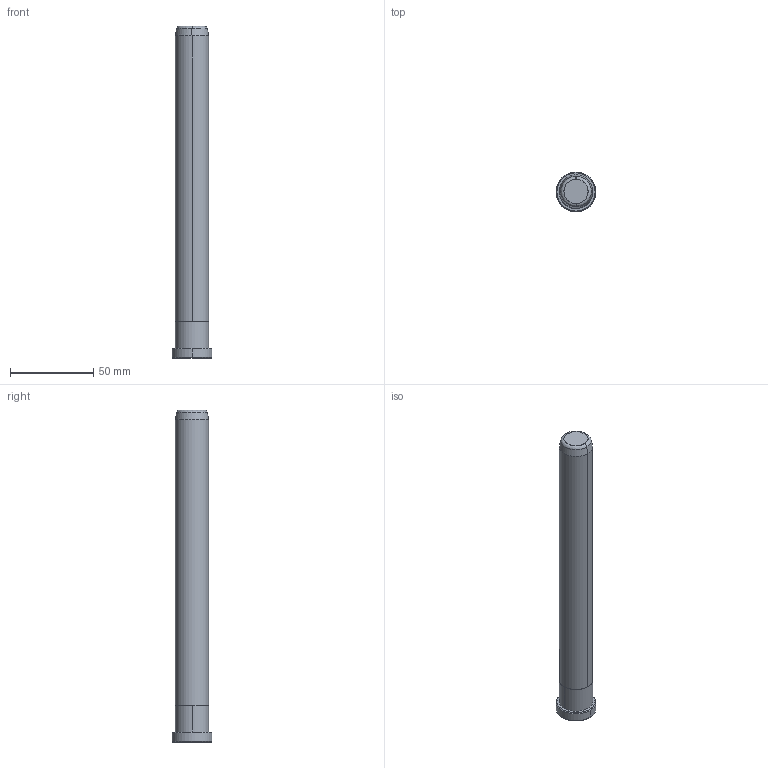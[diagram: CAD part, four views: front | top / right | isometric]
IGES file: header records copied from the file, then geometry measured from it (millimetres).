
Start section: START RECORD GO HERE.
Global section: file name: B80820200.igs; native system: DASSAULT SYSTEMES CATIA V5 R20 - www.3ds.com; preprocessor: CATIA Version 5 Release 20 ; author: Utente; organization: NB04-ASUS; date: 20200419.165042; units: millimetre
Bounding box: 24 x 24 x 200 mm (x, y, z)
Surface area: 13392.3 mm2 (no closed solid volume)
Topology: 0 solids, 0 shells, 20 faces, 80 edges, 80 vertices
Faces by surface type: revolution 16, plane 4
